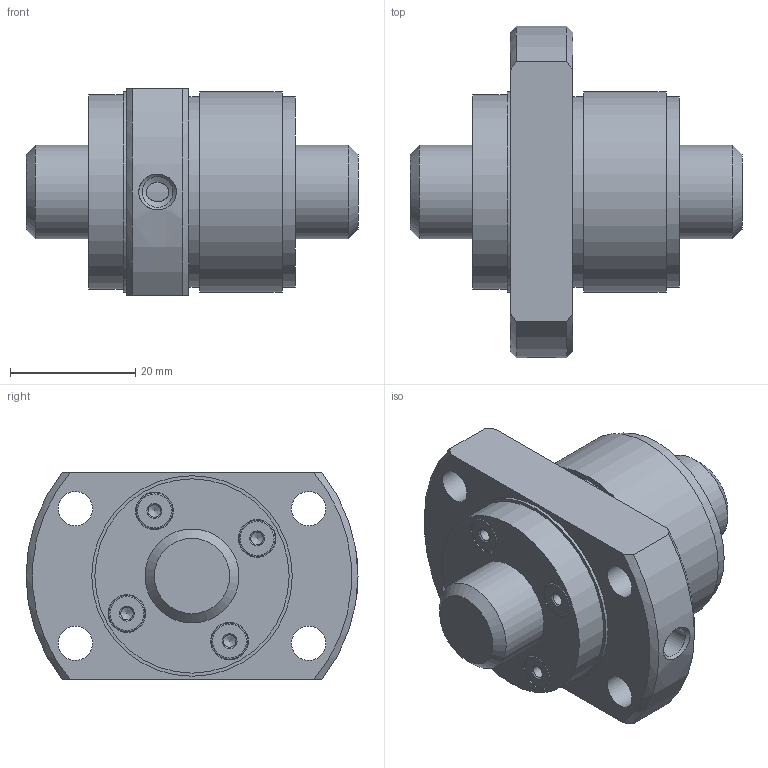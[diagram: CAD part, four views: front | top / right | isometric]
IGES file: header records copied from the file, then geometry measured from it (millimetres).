
Start section: Data from Parasolid IGES Translator 26.0.171, Copyright(c) 2006 Siemens PLM Software. All Rights Reserved.
Global section: file name: WGF1530-1G1+53LC3_N0_13_0_0.igs; native system: By Siemens PLM Incorporated; preprocessor: XPlus GENERIC/IGES 26.0.171; author: Noname; organization: Noname; date: 20250116.062520; units: millimetre
Bounding box: 53 x 53 x 33 mm (x, y, z)
Surface area: 12692.4 mm2 (no closed solid volume)
Topology: 0 solids, 0 shells, 65 faces, 262 edges, 206 vertices
Faces by surface type: revolution 46, extrusion 19
